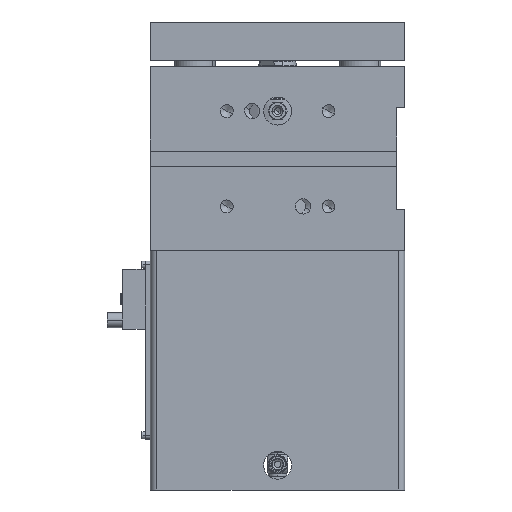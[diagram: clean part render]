
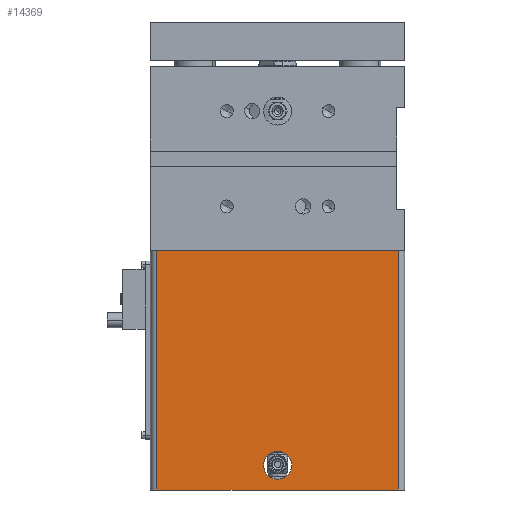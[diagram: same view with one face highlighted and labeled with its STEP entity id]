
A CAD part, front view. The second image highlights one B-rep face of the part: STEP entity #14369.
In plain terms, the highlighted planar face has unit normal (0, -1, 0).
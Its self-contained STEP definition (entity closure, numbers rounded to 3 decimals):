
#14331=AXIS2_PLACEMENT_3D('Plane Axis2P3D',#14328,#14329,#14330) ;
#14353=AXIS2_PLACEMENT_3D('Circle Axis2P3D',#14351,#14352,$) ;
#14362=AXIS2_PLACEMENT_3D('Circle Axis2P3D',#14360,#14361,$) ;
#14031=CARTESIAN_POINT('Vertex',(95.,-50.,-333.)) ;
#14034=CARTESIAN_POINT('Line Origine',(0.,-50.,-333.)) ;
#14038=CARTESIAN_POINT('Vertex',(-95.,-50.,-333.)) ;
#14302=CARTESIAN_POINT('Line Origine',(95.,-50.,-331.5)) ;
#14306=CARTESIAN_POINT('Vertex',(95.,-50.,-145.01)) ;
#14328=CARTESIAN_POINT('Axis2P3D Location',(-100.,-50.,-145.)) ;
#14333=CARTESIAN_POINT('Line Origine',(0.,-50.,-145.01)) ;
#14337=CARTESIAN_POINT('Vertex',(-95.,-50.,-145.01)) ;
#14340=CARTESIAN_POINT('Line Origine',(-95.,-50.,-239.005)) ;
#14351=CARTESIAN_POINT('Axis2P3D Location',(0.,-50.,-313.5)) ;
#14355=CARTESIAN_POINT('Vertex',(11.,-50.,-313.5)) ;
#14357=CARTESIAN_POINT('Vertex',(-11.,-50.,-313.5)) ;
#14360=CARTESIAN_POINT('Axis2P3D Location',(0.,-50.,-313.5)) ;
#14035=DIRECTION('Vector Direction',(-1.,0.,0.)) ;
#14303=DIRECTION('Vector Direction',(0.,0.,-1.)) ;
#14329=DIRECTION('Axis2P3D Direction',(-0.,1.,0.)) ;
#14330=DIRECTION('Axis2P3D XDirection',(1.,0.,0.)) ;
#14334=DIRECTION('Vector Direction',(1.,0.,0.)) ;
#14341=DIRECTION('Vector Direction',(0.,0.,-1.)) ;
#14352=DIRECTION('Axis2P3D Direction',(-0.,1.,0.)) ;
#14361=DIRECTION('Axis2P3D Direction',(-0.,1.,0.)) ;
#14036=VECTOR('Line Direction',#14035,1.) ;
#14304=VECTOR('Line Direction',#14303,1.) ;
#14335=VECTOR('Line Direction',#14334,1.) ;
#14342=VECTOR('Line Direction',#14341,1.) ;
#14346=ORIENTED_EDGE('',*,*,#14339,.T.) ;
#14347=ORIENTED_EDGE('',*,*,#14344,.T.) ;
#14348=ORIENTED_EDGE('',*,*,#14040,.F.) ;
#14349=ORIENTED_EDGE('',*,*,#14308,.F.) ;
#14366=ORIENTED_EDGE('',*,*,#14359,.T.) ;
#14367=ORIENTED_EDGE('',*,*,#14364,.T.) ;
#14368=FACE_BOUND('',#14365,.T.) ;
#14369=ADVANCED_FACE('PartBody',(#14350,#14368),#14332,.F.) ;
#14354=CIRCLE('generated circle',#14353,11.) ;
#14363=CIRCLE('generated circle',#14362,11.) ;
#14040=EDGE_CURVE('',#14032,#14039,#14037,.T.) ;
#14308=EDGE_CURVE('',#14307,#14032,#14305,.T.) ;
#14339=EDGE_CURVE('',#14307,#14338,#14336,.F.) ;
#14344=EDGE_CURVE('',#14338,#14039,#14343,.T.) ;
#14359=EDGE_CURVE('',#14356,#14358,#14354,.T.) ;
#14364=EDGE_CURVE('',#14358,#14356,#14363,.T.) ;
#14345=EDGE_LOOP('',(#14346,#14347,#14348,#14349)) ;
#14365=EDGE_LOOP('',(#14366,#14367)) ;
#14350=FACE_OUTER_BOUND('',#14345,.T.) ;
#14037=LINE('Line',#14034,#14036) ;
#14305=LINE('Line',#14302,#14304) ;
#14336=LINE('Line',#14333,#14335) ;
#14343=LINE('Line',#14340,#14342) ;
#14332=PLANE('Plane',#14331) ;
#14032=VERTEX_POINT('',#14031) ;
#14039=VERTEX_POINT('',#14038) ;
#14307=VERTEX_POINT('',#14306) ;
#14338=VERTEX_POINT('',#14337) ;
#14356=VERTEX_POINT('',#14355) ;
#14358=VERTEX_POINT('',#14357) ;
